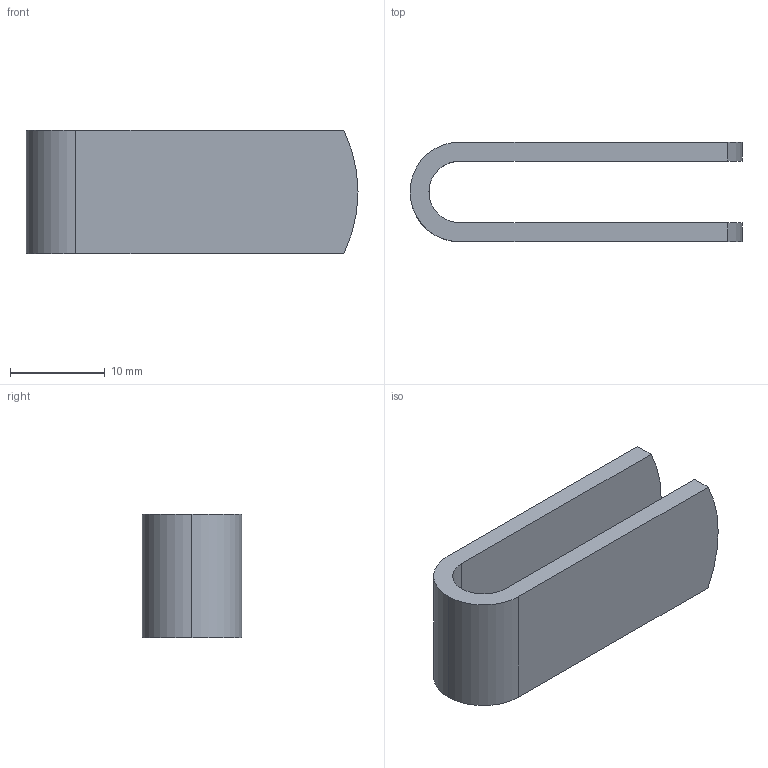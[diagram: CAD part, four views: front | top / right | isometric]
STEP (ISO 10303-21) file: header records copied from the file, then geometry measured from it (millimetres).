
FILE_DESCRIPTION(('STEP AP242'),'1');
FILE_NAME('941-2-c1-g.stp','2023-12-05T13:42:00',('TraceParts'),('TraceParts S.A.'),'Spatial InterOp 3D',' ',' ');
FILE_SCHEMA(('AP242_MANAGED_MODEL_BASED_3D_ENGINEERING_MIM_LF {1 0 10303 442 1 1 4}'));
Length unit declared in the file: millimetre
Products named in the file (1): 941-2-c1-g
Bounding box: 35 x 10.5 x 13 mm (x, y, z)
Volume: 1868.7 mm3; surface area: 2201.9 mm2
Topology: 1 solids, 1 shells, 12 faces, 30 edges, 20 vertices
Faces by surface type: cylinder 6, plane 6
Entity records: 391 total; most frequent: DIRECTION 68, CARTESIAN_POINT 63, ORIENTED_EDGE 60, EDGE_CURVE 30, AXIS2_PLACEMENT_3D 25, VERTEX_POINT 20, LINE 18, VECTOR 18
